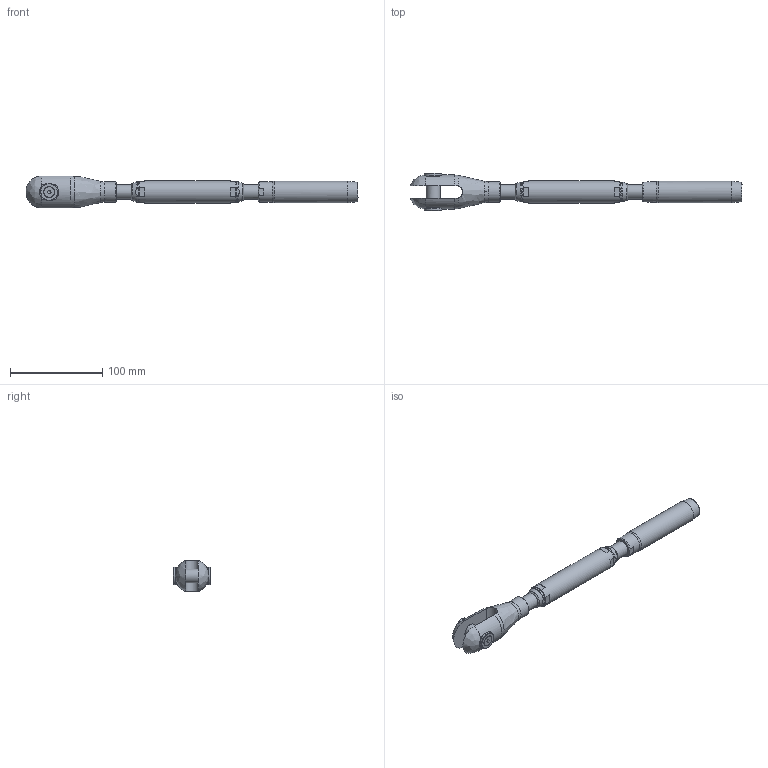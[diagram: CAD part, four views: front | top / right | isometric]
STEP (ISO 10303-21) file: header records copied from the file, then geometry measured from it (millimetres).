
FILE_DESCRIPTION(/* description */ (''),/* implementation_level */ '2;1');
FILE_NAME(/* name */ 'TBC 10_1,4462',/* time_stamp */ '2023-05-23T18:17:00+02:00',/* author */ (''),/* organization */ (''),/* preprocessor_version */ 'ST-DEVELOPER v16.5',/* originating_system */ 'Rhino 7.22',/* authorisation */ '');
FILE_SCHEMA (('CONFIG_CONTROL_DESIGN'));
Length unit declared in the file: millimetre
Products named in the file (1): Document
Bounding box: 360.09 x 40.86 x 34.25 mm (x, y, z)
Volume: 149711.2 mm3; surface area: 48625.7 mm2
Topology: 10 solids, 10 shells, 140 faces, 382 edges, 264 vertices
Faces by surface type: plane 65, bspline 40, cylinder 35
Full cylindrical faces by diameter (mm): 4.917 x2, 6 x2, 6.5 x2, 11.34 x2, 13.835 x4, 15 x1, 16 x4, 19 x3, 22.2 x2, 23.3 x1, 24 x1
Entity records: 5879 total; most frequent: CARTESIAN_POINT 3454, ORIENTED_EDGE 756, EDGE_CURVE 378, VERTEX_POINT 264, EDGE_LOOP 160, B_SPLINE_CURVE_WITH_KNOTS 157, ADVANCED_FACE 140, FACE_OUTER_BOUND 140
